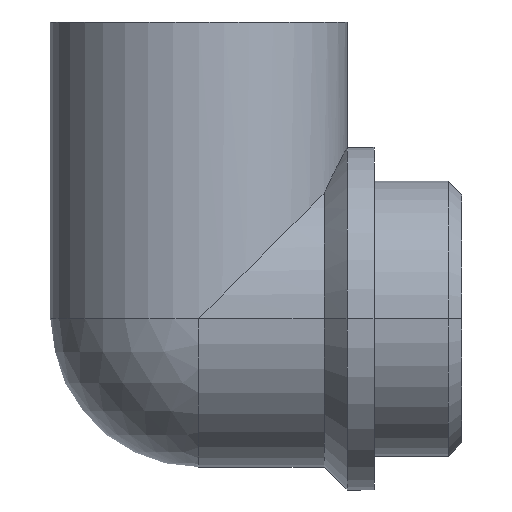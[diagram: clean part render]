
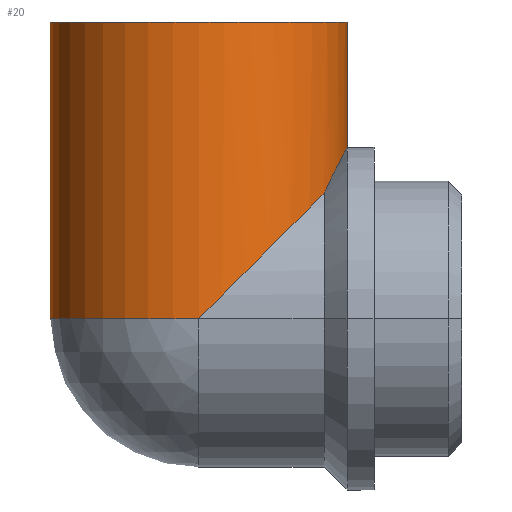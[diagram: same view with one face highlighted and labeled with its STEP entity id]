
A CAD part, front view. The second image highlights one B-rep face of the part: STEP entity #20.
In plain terms, the highlighted cylindrical face has radius 11 mm (diameter 22 mm), a partial arc.
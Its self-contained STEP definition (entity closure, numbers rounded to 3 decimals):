
#20 = ADVANCED_FACE ( 'NONE', ( #547 ), #513, .T. ) ;
#62 = EDGE_LOOP ( 'NONE', ( #1895, #1870, #1892, #1874, #1875, #1879 ) ) ;
#117 = VERTEX_POINT ( 'NONE', #711 ) ;
#126 = VERTEX_POINT ( 'NONE', #709 ) ;
#156 = EDGE_CURVE ( 'NONE', #258, #117, #743, .T. ) ;
#211 = EDGE_CURVE ( 'NONE', #258, #390, #927, .T. ) ;
#214 = EDGE_CURVE ( 'NONE', #377, #256, #941, .T. ) ;
#251 = EDGE_CURVE ( 'NONE', #126, #377, #1043, .T. ) ;
#256 = VERTEX_POINT ( 'NONE', #998 ) ;
#258 = VERTEX_POINT ( 'NONE', #1015 ) ;
#260 = EDGE_CURVE ( 'NONE', #390, #126, #1036, .T. ) ;
#377 = VERTEX_POINT ( 'NONE', #1232 ) ;
#390 = VERTEX_POINT ( 'NONE', #1268 ) ;
#495 = DIRECTION ( 'NONE',  ( -1., 0., 0. ) ) ;
#496 = DIRECTION ( 'NONE',  ( 0., 0., -1. ) ) ;
#511 = CARTESIAN_POINT ( 'NONE',  ( -19.5, 0., 22. ) ) ;
#512 = AXIS2_PLACEMENT_3D ( 'NONE', #511, #496, #495 ) ;
#513 = CYLINDRICAL_SURFACE ( 'NONE', #512, 11. ) ;
#547 = FACE_OUTER_BOUND ( 'NONE', #62, .T. ) ;
#709 = CARTESIAN_POINT ( 'NONE',  ( -8.5, 0., 12.7 ) ) ;
#711 = CARTESIAN_POINT ( 'NONE',  ( -30.5, 0., 0. ) ) ;
#715 = VECTOR ( 'NONE', #738, 1000. ) ;
#716 = CARTESIAN_POINT ( 'NONE',  ( -30.5, 0., 22. ) ) ;
#738 = DIRECTION ( 'NONE',  ( 0., 0., -1. ) ) ;
#743 = LINE ( 'NONE', #716, #715 ) ;
#866 = EDGE_CURVE ( 'NONE', #117, #256, #1497, .T. ) ;
#924 = DIRECTION ( 'NONE',  ( 1., 0., 0. ) ) ;
#925 = DIRECTION ( 'NONE',  ( 0., 0., 1. ) ) ;
#926 = AXIS2_PLACEMENT_3D ( 'NONE', #932, #925, #924 ) ;
#927 = CIRCLE ( 'NONE', #926, 11. ) ;
#928 = CARTESIAN_POINT ( 'NONE',  ( -19.5, -11., 0. ) ) ;
#929 = CARTESIAN_POINT ( 'NONE',  ( -15.641, -11., 3.859 ) ) ;
#930 = CARTESIAN_POINT ( 'NONE',  ( -12.261, -9.137, 7.239 ) ) ;
#931 = CARTESIAN_POINT ( 'NONE',  ( -10.2, -5.875, 9.3 ) ) ;
#932 = CARTESIAN_POINT ( 'NONE',  ( -19.5, 0., 22. ) ) ;
#941 =( BOUNDED_CURVE ( )  B_SPLINE_CURVE ( 3, ( #931, #930, #929, #928 ),
 .UNSPECIFIED., .F., .T. ) 
 B_SPLINE_CURVE_WITH_KNOTS ( ( 4, 4 ),
 ( 0.563, 1.571 ),
 .UNSPECIFIED. ) 
 CURVE ( )  GEOMETRIC_REPRESENTATION_ITEM ( )  RATIONAL_B_SPLINE_CURVE ( ( 1., 0.917, 0.917, 1. ) ) 
 REPRESENTATION_ITEM ( '' )  );
#987 = CARTESIAN_POINT ( 'NONE',  ( -10.2, -5.875, 9.3 ) ) ;
#988 = CARTESIAN_POINT ( 'NONE',  ( -10.094, -5.707, 9.531 ) ) ;
#989 = CARTESIAN_POINT ( 'NONE',  ( -8.751, -2.353, 12.228 ) ) ;
#990 = CARTESIAN_POINT ( 'NONE',  ( -8.694, -2.075, 12.337 ) ) ;
#991 = CARTESIAN_POINT ( 'NONE',  ( -8.599, -1.501, 12.515 ) ) ;
#992 = CARTESIAN_POINT ( 'NONE',  ( -8.562, -1.202, 12.585 ) ) ;
#998 = CARTESIAN_POINT ( 'NONE',  ( -19.5, -11., 0. ) ) ;
#1003 = CARTESIAN_POINT ( 'NONE',  ( -9.2, -3.896, 11.364 ) ) ;
#1004 = CARTESIAN_POINT ( 'NONE',  ( -8.958, -3.153, 11.832 ) ) ;
#1005 = CARTESIAN_POINT ( 'NONE',  ( -8.883, -2.891, 11.976 ) ) ;
#1008 = CARTESIAN_POINT ( 'NONE',  ( -8.5, 0., 12.7 ) ) ;
#1011 = CARTESIAN_POINT ( 'NONE',  ( -9.989, -5.53, 9.756 ) ) ;
#1012 = CARTESIAN_POINT ( 'NONE',  ( -9.782, -5.158, 10.191 ) ) ;
#1013 = CARTESIAN_POINT ( 'NONE',  ( -9.679, -4.961, 10.401 ) ) ;
#1014 = CARTESIAN_POINT ( 'NONE',  ( -9.383, -4.343, 11.003 ) ) ;
#1015 = CARTESIAN_POINT ( 'NONE',  ( -30.5, 0., 22. ) ) ;
#1018 = DIRECTION ( 'NONE',  ( 0., 0., -1. ) ) ;
#1019 = VECTOR ( 'NONE', #1018, 1000. ) ;
#1020 = CARTESIAN_POINT ( 'NONE',  ( -8.5, 0., 22. ) ) ;
#1034 = CARTESIAN_POINT ( 'NONE',  ( -8.513, -0.604, 12.677 ) ) ;
#1035 = CARTESIAN_POINT ( 'NONE',  ( -8.5, -0.303, 12.7 ) ) ;
#1036 = LINE ( 'NONE', #1020, #1019 ) ;
#1043 = B_SPLINE_CURVE_WITH_KNOTS ( 'NONE', 3,
 ( #1008, #1035, #1034, #992, #991, #990, #989, #1005, #1004, #1003, #1014, #1013, #1012, #1011, #988, #987 ),
 .UNSPECIFIED., .F., .F.,
 ( 4, 2, 2, 2, 2, 2, 2, 4 ),
 ( 0.008, 0.009, 0.01, 0.01, 0.011, 0.013, 0.014, 0.015 ),
 .UNSPECIFIED. ) ;
#1232 = CARTESIAN_POINT ( 'NONE',  ( -10.2, -5.875, 9.3 ) ) ;
#1268 = CARTESIAN_POINT ( 'NONE',  ( -8.5, 0., 22. ) ) ;
#1494 = DIRECTION ( 'NONE',  ( 0., 0., 1. ) ) ;
#1495 = CARTESIAN_POINT ( 'NONE',  ( -19.5, 0., 0. ) ) ;
#1496 = AXIS2_PLACEMENT_3D ( 'NONE', #1495, #1494, #1535 ) ;
#1497 = CIRCLE ( 'NONE', #1496, 11. ) ;
#1535 = DIRECTION ( 'NONE',  ( 1., 0., 0. ) ) ;
#1870 = ORIENTED_EDGE ( 'NONE', *, *, #211, .F. ) ;
#1874 = ORIENTED_EDGE ( 'NONE', *, *, #866, .T. ) ;
#1875 = ORIENTED_EDGE ( 'NONE', *, *, #214, .F. ) ;
#1879 = ORIENTED_EDGE ( 'NONE', *, *, #251, .F. ) ;
#1892 = ORIENTED_EDGE ( 'NONE', *, *, #156, .T. ) ;
#1895 = ORIENTED_EDGE ( 'NONE', *, *, #260, .F. ) ;
